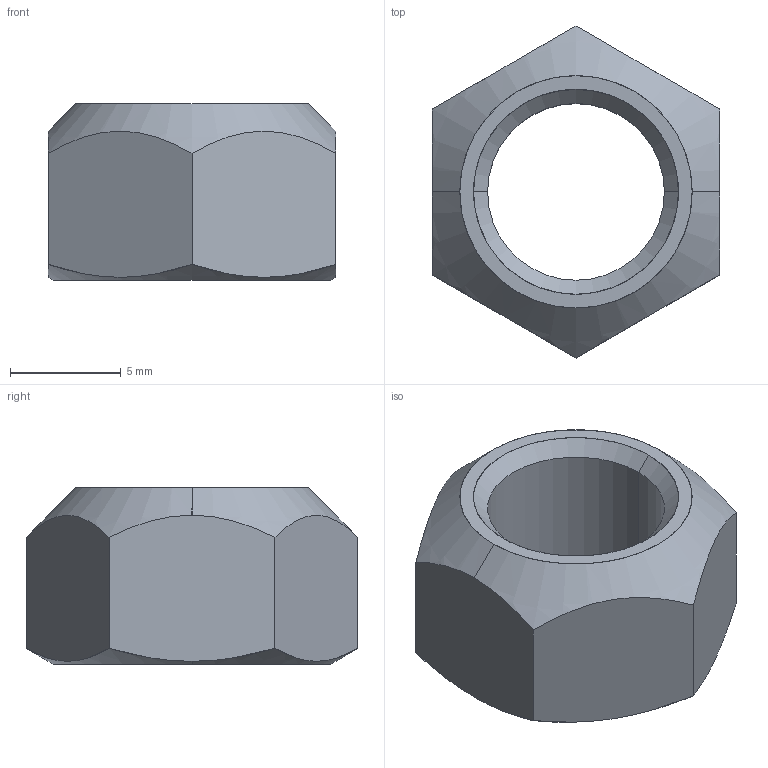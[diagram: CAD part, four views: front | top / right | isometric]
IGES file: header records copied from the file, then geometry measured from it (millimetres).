
Start section: SolidWorks IGES file using analytic representation for surfaces
Global section: file name: C:\Users\liam_\OneDrive\Documents\WORK\Work for WixRoyd\Job Files\J-00021 - Matt Davis CAD Checking\04. CAD Drawings\automotion20190729\P0308.ZP_v2\P0308.ZP_v2_20190913_IGES\P0308.080-ZP.igs; native system: SolidWorks 2017; preprocessor: SolidWorks 2017; author: liam_; date: 190913.213958; units: millimetre
Bounding box: 13 x 15.01 x 8 mm (x, y, z)
Surface area: 677.3 mm2 (no closed solid volume)
Topology: 0 solids, 0 shells, 18 faces, 356 edges, 356 vertices
Faces by surface type: revolution 10, bspline 8
